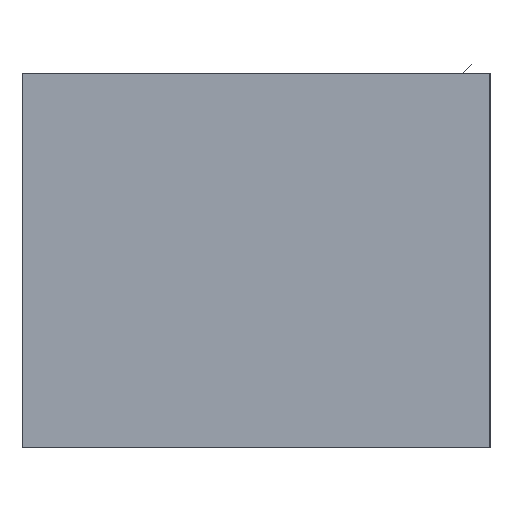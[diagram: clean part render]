
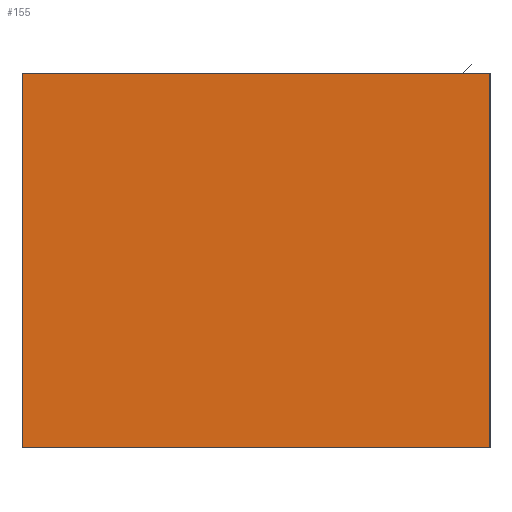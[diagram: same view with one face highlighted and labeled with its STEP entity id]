
A CAD part, left-side view. The second image highlights one B-rep face of the part: STEP entity #155.
In plain terms, the highlighted planar face has unit normal (-1, 0, 0).
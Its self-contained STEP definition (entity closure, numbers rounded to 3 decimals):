
#22 = ORIENTED_EDGE ( 'NONE', *, *, #99, .T. ) ;
#30 = DIRECTION ( 'NONE',  ( 0., 0., -1. ) ) ;
#66 = CARTESIAN_POINT ( 'NONE',  ( -150., 178.062, 1.5 ) ) ;
#67 = DIRECTION ( 'NONE',  ( 0., -1., 0. ) ) ;
#75 = EDGE_CURVE ( 'NONE', #425, #326, #303, .T. ) ;
#96 = DIRECTION ( 'NONE',  ( 0., 0., 1. ) ) ;
#99 = EDGE_CURVE ( 'NONE', #425, #429, #440, .T. ) ;
#102 = VECTOR ( 'NONE', #30, 1000. ) ;
#110 = ORIENTED_EDGE ( 'NONE', *, *, #136, .F. ) ;
#112 = VECTOR ( 'NONE', #267, 1000. ) ;
#120 = CARTESIAN_POINT ( 'NONE',  ( -150., -50., -78.5 ) ) ;
#126 = VERTEX_POINT ( 'NONE', #165 ) ;
#130 = FACE_OUTER_BOUND ( 'NONE', #245, .T. ) ;
#136 = EDGE_CURVE ( 'NONE', #326, #126, #200, .T. ) ;
#137 = CARTESIAN_POINT ( 'NONE',  ( -150., 50., 1.5 ) ) ;
#139 = VECTOR ( 'NONE', #96, 1000. ) ;
#147 = EDGE_CURVE ( 'NONE', #126, #429, #233, .T. ) ;
#155 = ADVANCED_FACE ( 'NONE', ( #130 ), #305, .F. ) ;
#165 = CARTESIAN_POINT ( 'NONE',  ( -150., -50., 1.5 ) ) ;
#169 = CARTESIAN_POINT ( 'NONE',  ( -150., 178.062, -78.5 ) ) ;
#200 = LINE ( 'NONE', #237, #221 ) ;
#221 = VECTOR ( 'NONE', #67, 1000. ) ;
#233 = LINE ( 'NONE', #302, #102 ) ;
#237 = CARTESIAN_POINT ( 'NONE',  ( -150., 178.062, 1.5 ) ) ;
#245 = EDGE_LOOP ( 'NONE', ( #296, #22, #398, #110 ) ) ;
#267 = DIRECTION ( 'NONE',  ( 0., -1., 0. ) ) ;
#271 = DIRECTION ( 'NONE',  ( 0., 0., -1. ) ) ;
#296 = ORIENTED_EDGE ( 'NONE', *, *, #75, .F. ) ;
#302 = CARTESIAN_POINT ( 'NONE',  ( -150., -50., 1.5 ) ) ;
#303 = LINE ( 'NONE', #437, #139 ) ;
#305 = PLANE ( 'NONE',  #357 ) ;
#326 = VERTEX_POINT ( 'NONE', #137 ) ;
#357 = AXIS2_PLACEMENT_3D ( 'NONE', #66, #439, #271 ) ;
#389 = CARTESIAN_POINT ( 'NONE',  ( -150., 50., -78.5 ) ) ;
#398 = ORIENTED_EDGE ( 'NONE', *, *, #147, .F. ) ;
#425 = VERTEX_POINT ( 'NONE', #389 ) ;
#429 = VERTEX_POINT ( 'NONE', #120 ) ;
#437 = CARTESIAN_POINT ( 'NONE',  ( -150., 50., 1.5 ) ) ;
#439 = DIRECTION ( 'NONE',  ( 1., 0., 0. ) ) ;
#440 = LINE ( 'NONE', #169, #112 ) ;
